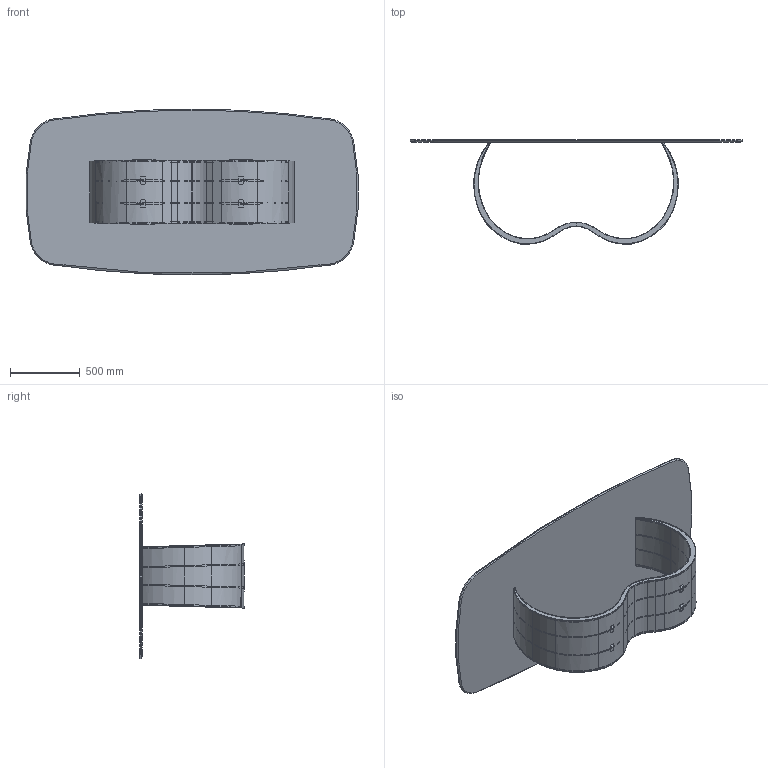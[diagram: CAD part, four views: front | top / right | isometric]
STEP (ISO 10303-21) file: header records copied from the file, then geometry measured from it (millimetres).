
FILE_DESCRIPTION (( 'STEP AP203' ), '1' );
FILE_NAME ('AI42C_Alisei_239x119_Ceramic Shaped.STEP', '2024-07-31T12:49:42', ( '' ), ( '' ), 'SwSTEP 2.0', 'SolidWorks 2022', '' );
FILE_SCHEMA (( 'CONFIG_CONTROL_DESIGN' ));
Length unit declared in the file: millimetre
Products named in the file (13): ALI000000-00-ALISEI BASE METALLO L240 GREZZO; GOMMINO PVC; ALI000000_03-00-MEZZA COSTOLA ESTERNA; ALI000000_04-00-MEZZA COSTOLA INTERNA_SpecchiaturaDefault; ALI000000_02-00-LAMIERA CALANDRATA INTERNA; ALI000000_03-00-MEZZA COSTOLA ESTERNA_SpecchiaturaDefault; ALI000000_04-00-MEZZA COSTOLA INTERNA_SpecchiaturaSpecchiaturaDefault; K4XCMXX-00-Piani Sagomati in ceramica_2390 x 1190; ALI000001_05-00-APPOGGIO PIANO; AI42C_Alisei_239x119_Ceramic Shaped; ALI000000_01-00-LAMIERA CALANDRATA ESTERNA; ALI000000_03-00-MEZZA COSTOLA ESTERNA_SpecchiaturaSpecchiaturaDefault; ALI000000_04-00-MEZZA COSTOLA INTERNA
Assembly tree (18 placements, depth 3):
  AI42C_Alisei_239x119_Ceramic Shaped
    ALI000000-00-ALISEI BASE METALLO L240 GREZZO
      ALI000000_01-00-LAMIERA CALANDRATA ESTERNA
      ALI000000_02-00-LAMIERA CALANDRATA INTERNA
      ALI000000_03-00-MEZZA COSTOLA ESTERNA
      ALI000000_04-00-MEZZA COSTOLA INTERNA
      ALI000000_03-00-MEZZA COSTOLA ESTERNA_SpecchiaturaDefault  x2
      ALI000000_04-00-MEZZA COSTOLA INTERNA_SpecchiaturaDefault  x2
      ALI000000_03-00-MEZZA COSTOLA ESTERNA_SpecchiaturaSpecchiaturaDefault
      ALI000000_04-00-MEZZA COSTOLA INTERNA_SpecchiaturaSpecchiaturaDefault
      ALI000001_05-00-APPOGGIO PIANO  x2
    GOMMINO PVC  x4
    K4XCMXX-00-Piani Sagomati in ceramica_2390 x 1190
Bounding box: 2382.15 x 747 x 1190 mm (x, y, z)
Volume: 48968525.3 mm3; surface area: 16068267.8 mm2
Topology: 18 solids, 18 shells, 1059 faces, 2925 edges, 1894 vertices
Faces by surface type: bspline 552, plane 324, cylinder 158, torus 16, cone 9
Entity records: 40309 total; most frequent: CARTESIAN_POINT 20814, ORIENTED_EDGE 5032, EDGE_CURVE 2516, DIRECTION 2284, VERTEX_POINT 1628, LINE 1144, VECTOR 1144, EDGE_LOOP 990
